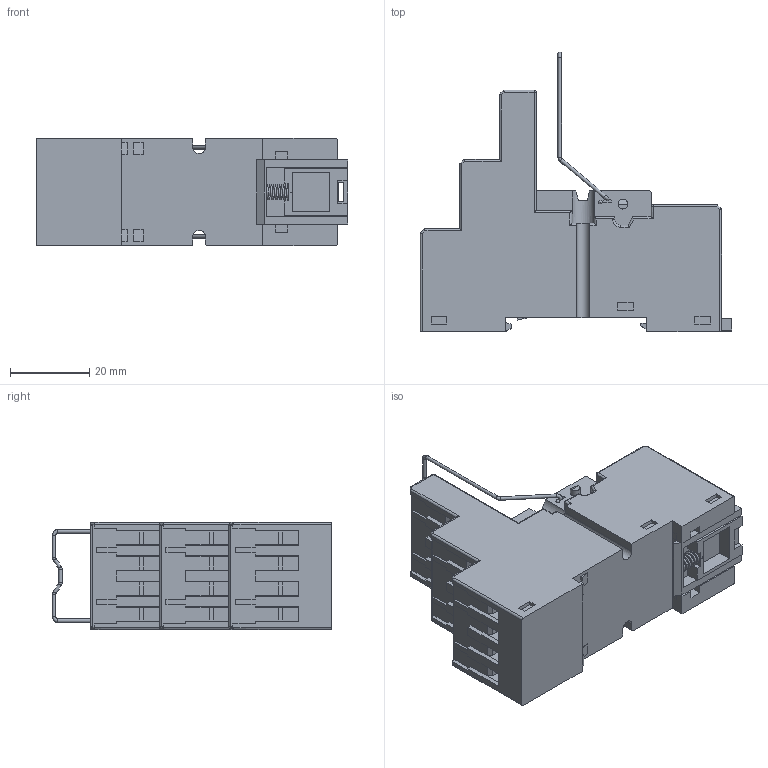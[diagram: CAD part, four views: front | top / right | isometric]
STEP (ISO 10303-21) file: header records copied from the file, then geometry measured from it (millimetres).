
FILE_DESCRIPTION(/* description */ (''),/* implementation_level */ '2;1');
FILE_NAME(/* name */ 'C:\Desktop\94.04.stp',/* time_stamp */ '2016-09-05T09:36:38+02:00',/* author */ ('marco'),/* organization */ (''),/* preprocessor_version */ 'ST-DEVELOPER v16.1',/* originating_system */ 'Autodesk Inventor 2016',/* authorisation */ '');
FILE_SCHEMA (('AUTOMOTIVE_DESIGN { 1 0 10303 214 3 1 1 }'));
Length unit declared in the file: millimetre
Products named in the file (7): 94.04; EF00244-; EF00137-; EF00345-M3-; Assieme mors.+vite; 094.71; 94.04_1
Assembly tree (19 placements, depth 3):
  94.04_1
    94.04
    EF00244-
    EF00137-
    Assieme mors.+vite  x14
      EF00345-M3-
    094.71
Bounding box: 78.6 x 70.45 x 27 mm (x, y, z)
Volume: 65264.9 mm3; surface area: 23589.7 mm2
Topology: 18 solids, 18 shells, 942 faces, 2353 edges, 1516 vertices
Faces by surface type: plane 756, cylinder 153, cone 14, torus 12, sphere 6, bspline 1
Full cylindrical faces by diameter (mm): 0.9 x13, 2.2 x14, 2.5 x2, 2.6 x14, 3 x15, 4.7 x14, 5 x14
Entity records: 20927 total; most frequent: CARTESIAN_POINT 4540, ORIENTED_EDGE 3320, DIRECTION 3234, EDGE_CURVE 1660, LINE 1472, VECTOR 1472, VERTEX_POINT 1095, AXIS2_PLACEMENT_3D 881
